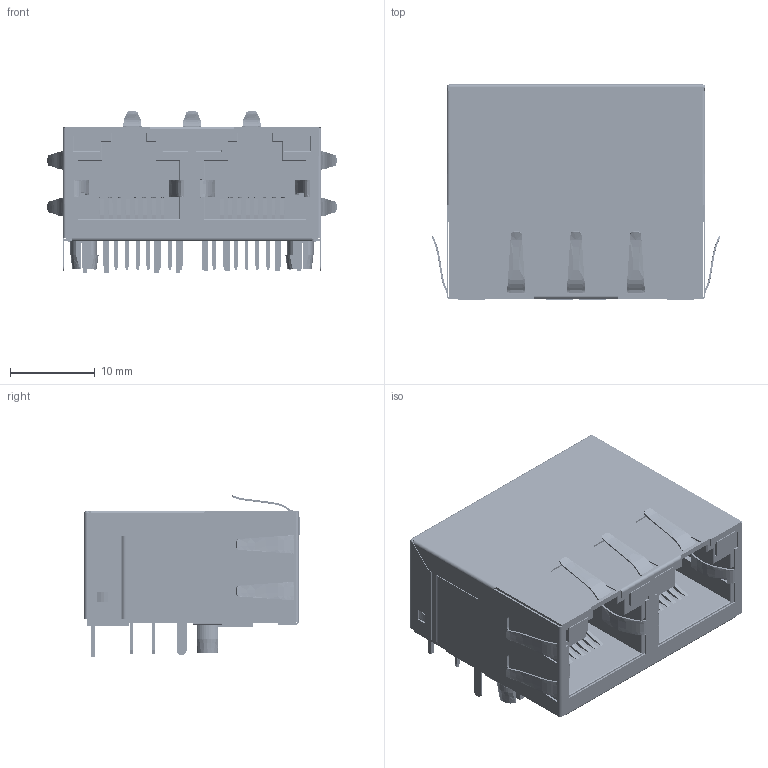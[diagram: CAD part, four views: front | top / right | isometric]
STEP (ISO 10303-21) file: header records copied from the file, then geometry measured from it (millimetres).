
FILE_DESCRIPTION((''),'2;1');
FILE_NAME('DGKYD312Q106DE3A4D_ASM_ASM','2019-07-01T',('Administrator'),(''),'PRO/ENGINEER BY PARAMETRIC TECHNOLOGY CORPORATION, 2008380','PRO/ENGINEER BY PARAMETRIC TECHNOLOGY CORPORATION, 2008380','');
FILE_SCHEMA(('CONFIG_CONTROL_DESIGN'));
Length unit declared in the file: millimetre
Products named in the file (16): PRT0004_3; DIANLUBAN5_8; MANIFOLD_SOLID_BREP_31222; MANIFOLD_SOLID_BREP_32352; ZHENG_8_ASM; XIANLUBAN_2; DGKYD311B074DA1A4DN_CHIHUAN_2_3; CHIHUAN_1_1; ASM0001_ASM_6_ASM; ASM0003_ASM_3_ASM; DGKYD312Q090DG1A4D_3; MANIFOLD_SOLID_BREP_128749; MANIFOLD_SOLID_BREP_129579; LED_3_ASM; ASM0004_ASM_3_ASM; DGKYD312Q106DE3A4D_ASM_ASM
Assembly tree (24 placements, depth 5):
  DGKYD312Q106DE3A4D_ASM_ASM
    ASM0004_ASM_3_ASM
      PRT0004_3
      ASM0003_ASM_3_ASM  x2
        DIANLUBAN5_8
        ZHENG_8_ASM
          MANIFOLD_SOLID_BREP_31222
          MANIFOLD_SOLID_BREP_32352
        ASM0001_ASM_6_ASM
          XIANLUBAN_2
          DGKYD311B074DA1A4DN_CHIHUAN_2_3  x2
          CHIHUAN_1_1  x3
      DGKYD312Q090DG1A4D_3
      LED_3_ASM  x2
        MANIFOLD_SOLID_BREP_128749
        MANIFOLD_SOLID_BREP_129579
Bounding box: 34.1 x 25.41 x 19.05 mm (x, y, z)
Volume: 5271.9 mm3; surface area: 17033.5 mm2
Topology: 40 solids, 70 shells, 5085 faces, 14043 edges, 8996 vertices
Faces by surface type: plane 2548, bspline 1828, cylinder 421, extrusion 202, torus 80, cone 4, sphere 2
Entity records: 129531 total; most frequent: CARTESIAN_POINT 81123, ORIENTED_EDGE 11084, DIRECTION 7864, EDGE_CURVE 5644, VECTOR 4024, LINE 3912, VERTEX_POINT 3646, EDGE_LOOP 2090
